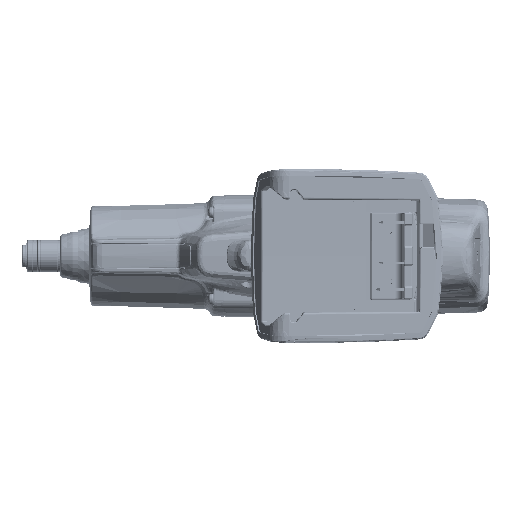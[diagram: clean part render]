
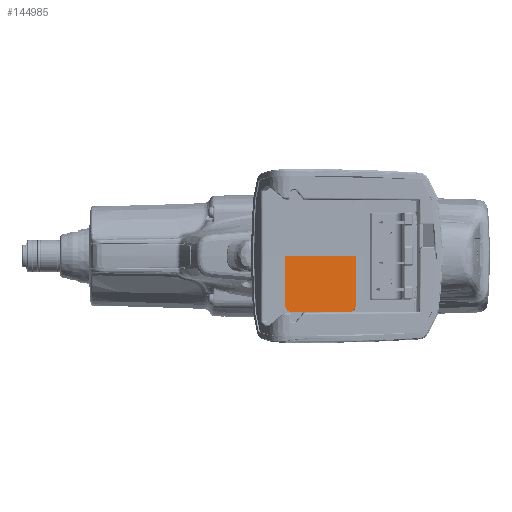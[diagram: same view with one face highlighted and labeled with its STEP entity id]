
A CAD part, front view. The second image highlights one B-rep face of the part: STEP entity #144985.
In plain terms, the highlighted planar face has unit normal (0.087, -0.996, 0.004).
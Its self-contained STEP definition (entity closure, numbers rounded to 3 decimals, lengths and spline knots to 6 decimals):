
#30728=DIRECTION('',(0.996,0.087,0.));
#30729=VECTOR('',#30728,0.032003);
#30730=CARTESIAN_POINT('',(0.024524,-0.167612,
0.));
#30731=LINE('',#30730,#30729);
#52019=CARTESIAN_POINT('',(0.024727,-0.167673,
-0.022522));
#52020=CARTESIAN_POINT('',(0.024734,-0.167676,
-0.023348));
#52021=CARTESIAN_POINT('',(0.025364,-0.167624,
-0.024377));
#52022=CARTESIAN_POINT('',(0.026395,-0.167536,
-0.025));
#52023=CARTESIAN_POINT('',(0.027218,-0.167464,
-0.025));
#52025=DIRECTION('',(0.009,-0.003,-1.));
#52026=VECTOR('',#52025,0.022523);
#52027=CARTESIAN_POINT('',(0.024524,-0.167612,
0.));
#52028=LINE('',#52027,#52026);
#52029=CARTESIAN_POINT('',(0.053727,-0.165145,
-0.025));
#52030=CARTESIAN_POINT('',(0.05455,-0.165073,
-0.025));
#52031=CARTESIAN_POINT('',(0.05558,-0.164981,
-0.024377));
#52032=CARTESIAN_POINT('',(0.05621,-0.164922,
-0.023348));
#52033=CARTESIAN_POINT('',(0.056217,-0.164918,
-0.022522));
#52039=DIRECTION('',(-0.996,-0.087,0.));
#52040=VECTOR('',#52039,0.026611);
#52041=CARTESIAN_POINT('',(0.053727,-0.165145,
-0.025));
#52042=LINE('',#52041,#52040);
#52063=DIRECTION('',(-0.008,-0.004,-1.));
#52064=VECTOR('',#52063,0.022523);
#52065=CARTESIAN_POINT('',(0.056406,-0.164823,
0.));
#52066=LINE('',#52065,#52064);
#74854=VERTEX_POINT('',#52019);
#74855=VERTEX_POINT('',#52023);
#76595=CARTESIAN_POINT('',(0.053727,-0.165145,
-0.025));
#76597=VERTEX_POINT('',#76595);
#77407=VERTEX_POINT('',#52033);
#77408=CARTESIAN_POINT('',(0.056406,-0.164823,
0.));
#77409=VERTEX_POINT('',#77408);
#77410=CARTESIAN_POINT('',(0.024524,-0.167612,
0.));
#77411=VERTEX_POINT('',#77410);
#144968=CARTESIAN_POINT('',(0.091041,-0.16188,
-0.024901));
#144969=DIRECTION('',(0.087,-0.996,0.003));
#144970=DIRECTION('',(0.996,0.087,0.));
#144971=AXIS2_PLACEMENT_3D('',#144968,#144969,#144970);
#144972=PLANE('',#144971);
#144974=ORIENTED_EDGE('',*,*,#144973,.T.);
#144976=ORIENTED_EDGE('',*,*,#144975,.F.);
#144977=ORIENTED_EDGE('',*,*,#144959,.F.);
#144978=ORIENTED_EDGE('',*,*,#97151,.T.);
#144980=ORIENTED_EDGE('',*,*,#144979,.T.);
#144982=ORIENTED_EDGE('',*,*,#144981,.F.);
#144983=EDGE_LOOP('',(#144974,#144976,#144977,#144978,#144980,#144982));
#144984=FACE_OUTER_BOUND('',#144983,.F.);
#144985=ADVANCED_FACE('',(#144984),#144972,.T.);
#52024=B_SPLINE_CURVE_WITH_KNOTS('',3,(#52019,#52020,#52021,#52022,#52023),
.UNSPECIFIED.,.F.,.F.,(4,1,4),(0.,0.5,1.),.UNSPECIFIED.);
#52034=B_SPLINE_CURVE_WITH_KNOTS('',3,(#52029,#52030,#52031,#52032,#52033),
.UNSPECIFIED.,.F.,.F.,(4,1,4),(0.,0.5,1.),.UNSPECIFIED.);
#97151=EDGE_CURVE('',#77411,#77409,#30731,.T.);
#144959=EDGE_CURVE('',#77411,#74854,#52028,.T.);
#144973=EDGE_CURVE('',#76597,#74855,#52042,.T.);
#144975=EDGE_CURVE('',#74854,#74855,#52024,.T.);
#144979=EDGE_CURVE('',#77409,#77407,#52066,.T.);
#144981=EDGE_CURVE('',#76597,#77407,#52034,.T.);
